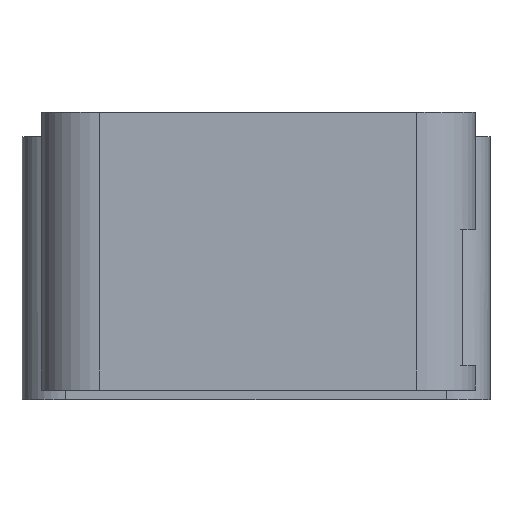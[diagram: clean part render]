
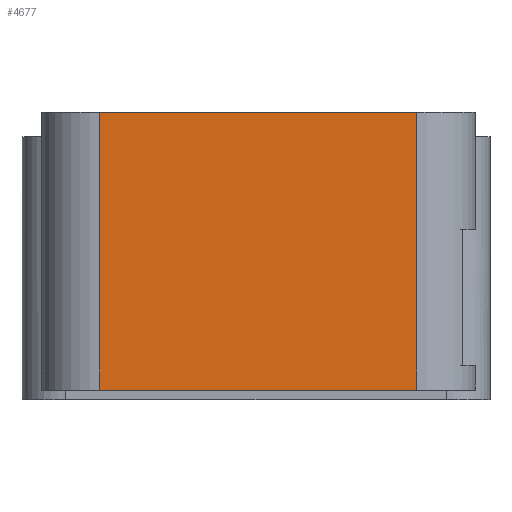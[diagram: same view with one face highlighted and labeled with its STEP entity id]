
A CAD part, left-side view. The second image highlights one B-rep face of the part: STEP entity #4677.
In plain terms, the highlighted planar face has unit normal (-1, 0, 0).
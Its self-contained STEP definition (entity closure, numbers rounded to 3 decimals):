
#1809 = PLANE('',#1810);
#1810 = AXIS2_PLACEMENT_3D('',#1811,#1812,#1813);
#1811 = CARTESIAN_POINT('',(-42.,-43.,-40.));
#1812 = DIRECTION('',(0.,0.,1.));
#1813 = DIRECTION('',(1.,0.,0.));
#1980 = PLANE('',#1981);
#1981 = AXIS2_PLACEMENT_3D('',#1982,#1983,#1984);
#1982 = CARTESIAN_POINT('',(-42.,-43.,17.));
#1983 = DIRECTION('',(0.,0.,1.));
#1984 = DIRECTION('',(1.,0.,0.));
#2866 = VERTEX_POINT('',#2867);
#2867 = CARTESIAN_POINT('',(-83.,-31.,-40.));
#2882 = CYLINDRICAL_SURFACE('',#2883,12.);
#2883 = AXIS2_PLACEMENT_3D('',#2884,#2885,#2886);
#2884 = CARTESIAN_POINT('',(-71.,-31.,-40.));
#2885 = DIRECTION('',(-0.,-0.,1.));
#2886 = DIRECTION('',(-1.,-0.,-0.));
#2894 = EDGE_CURVE('',#2866,#2895,#2897,.T.);
#2895 = VERTEX_POINT('',#2896);
#2896 = CARTESIAN_POINT('',(-83.,34.,-40.));
#2897 = SURFACE_CURVE('',#2898,(#2902,#2909),.PCURVE_S1.);
#2898 = LINE('',#2899,#2900);
#2899 = CARTESIAN_POINT('',(-83.,-43.,-40.));
#2900 = VECTOR('',#2901,1.);
#2901 = DIRECTION('',(-0.,1.,0.));
#2902 = PCURVE('',#1809,#2903);
#2903 = DEFINITIONAL_REPRESENTATION('',(#2904),#2908);
#2904 = LINE('',#2905,#2906);
#2905 = CARTESIAN_POINT('',(-41.,0.));
#2906 = VECTOR('',#2907,1.);
#2907 = DIRECTION('',(-0.,1.));
#2908 = ( GEOMETRIC_REPRESENTATION_CONTEXT(2) 
PARAMETRIC_REPRESENTATION_CONTEXT() REPRESENTATION_CONTEXT('2D SPACE',''
  ) );
#2909 = PCURVE('',#2910,#2915);
#2910 = PLANE('',#2911);
#2911 = AXIS2_PLACEMENT_3D('',#2912,#2913,#2914);
#2912 = CARTESIAN_POINT('',(-83.,-43.,-40.));
#2913 = DIRECTION('',(-1.,-0.,0.));
#2914 = DIRECTION('',(0.,0.,-1.));
#2915 = DEFINITIONAL_REPRESENTATION('',(#2916),#2920);
#2916 = LINE('',#2917,#2918);
#2917 = CARTESIAN_POINT('',(-0.,-0.));
#2918 = VECTOR('',#2919,1.);
#2919 = DIRECTION('',(-0.,-1.));
#2920 = ( GEOMETRIC_REPRESENTATION_CONTEXT(2) 
PARAMETRIC_REPRESENTATION_CONTEXT() REPRESENTATION_CONTEXT('2D SPACE',''
  ) );
#2943 = CYLINDRICAL_SURFACE('',#2944,12.);
#2944 = AXIS2_PLACEMENT_3D('',#2945,#2946,#2947);
#2945 = CARTESIAN_POINT('',(-71.,34.,-40.));
#2946 = DIRECTION('',(-0.,-0.,1.));
#2947 = DIRECTION('',(-1.,-0.,-0.));
#3764 = VERTEX_POINT('',#3765);
#3765 = CARTESIAN_POINT('',(-83.,-31.,17.));
#3787 = EDGE_CURVE('',#3764,#3788,#3790,.T.);
#3788 = VERTEX_POINT('',#3789);
#3789 = CARTESIAN_POINT('',(-83.,34.,17.));
#3790 = SURFACE_CURVE('',#3791,(#3795,#3802),.PCURVE_S1.);
#3791 = LINE('',#3792,#3793);
#3792 = CARTESIAN_POINT('',(-83.,-43.,17.));
#3793 = VECTOR('',#3794,1.);
#3794 = DIRECTION('',(-0.,1.,0.));
#3795 = PCURVE('',#1980,#3796);
#3796 = DEFINITIONAL_REPRESENTATION('',(#3797),#3801);
#3797 = LINE('',#3798,#3799);
#3798 = CARTESIAN_POINT('',(-41.,0.));
#3799 = VECTOR('',#3800,1.);
#3800 = DIRECTION('',(-0.,1.));
#3801 = ( GEOMETRIC_REPRESENTATION_CONTEXT(2) 
PARAMETRIC_REPRESENTATION_CONTEXT() REPRESENTATION_CONTEXT('2D SPACE',''
  ) );
#3802 = PCURVE('',#2910,#3803);
#3803 = DEFINITIONAL_REPRESENTATION('',(#3804),#3808);
#3804 = LINE('',#3805,#3806);
#3805 = CARTESIAN_POINT('',(-57.,-0.));
#3806 = VECTOR('',#3807,1.);
#3807 = DIRECTION('',(-0.,-1.));
#3808 = ( GEOMETRIC_REPRESENTATION_CONTEXT(2) 
PARAMETRIC_REPRESENTATION_CONTEXT() REPRESENTATION_CONTEXT('2D SPACE',''
  ) );
#4657 = EDGE_CURVE('',#2895,#3788,#4658,.T.);
#4658 = SURFACE_CURVE('',#4659,(#4663,#4670),.PCURVE_S1.);
#4659 = LINE('',#4660,#4661);
#4660 = CARTESIAN_POINT('',(-83.,34.,-40.));
#4661 = VECTOR('',#4662,1.);
#4662 = DIRECTION('',(-0.,-0.,1.));
#4663 = PCURVE('',#2943,#4664);
#4664 = DEFINITIONAL_REPRESENTATION('',(#4665),#4669);
#4665 = LINE('',#4666,#4667);
#4666 = CARTESIAN_POINT('',(-0.,0.));
#4667 = VECTOR('',#4668,1.);
#4668 = DIRECTION('',(-0.,1.));
#4669 = ( GEOMETRIC_REPRESENTATION_CONTEXT(2) 
PARAMETRIC_REPRESENTATION_CONTEXT() REPRESENTATION_CONTEXT('2D SPACE',''
  ) );
#4670 = PCURVE('',#2910,#4671);
#4671 = DEFINITIONAL_REPRESENTATION('',(#4672),#4676);
#4672 = LINE('',#4673,#4674);
#4673 = CARTESIAN_POINT('',(-0.,-77.));
#4674 = VECTOR('',#4675,1.);
#4675 = DIRECTION('',(-1.,-0.));
#4676 = ( GEOMETRIC_REPRESENTATION_CONTEXT(2) 
PARAMETRIC_REPRESENTATION_CONTEXT() REPRESENTATION_CONTEXT('2D SPACE',''
  ) );
#4677 = ADVANCED_FACE('',(#4678),#2910,.T.);
#4678 = FACE_BOUND('',#4679,.F.);
#4679 = EDGE_LOOP('',(#4680,#4681,#4702,#4703));
#4680 = ORIENTED_EDGE('',*,*,#3787,.F.);
#4681 = ORIENTED_EDGE('',*,*,#4682,.F.);
#4682 = EDGE_CURVE('',#2866,#3764,#4683,.T.);
#4683 = SURFACE_CURVE('',#4684,(#4688,#4695),.PCURVE_S1.);
#4684 = LINE('',#4685,#4686);
#4685 = CARTESIAN_POINT('',(-83.,-31.,-40.));
#4686 = VECTOR('',#4687,1.);
#4687 = DIRECTION('',(-0.,-0.,1.));
#4688 = PCURVE('',#2910,#4689);
#4689 = DEFINITIONAL_REPRESENTATION('',(#4690),#4694);
#4690 = LINE('',#4691,#4692);
#4691 = CARTESIAN_POINT('',(-0.,-12.));
#4692 = VECTOR('',#4693,1.);
#4693 = DIRECTION('',(-1.,-0.));
#4694 = ( GEOMETRIC_REPRESENTATION_CONTEXT(2) 
PARAMETRIC_REPRESENTATION_CONTEXT() REPRESENTATION_CONTEXT('2D SPACE',''
  ) );
#4695 = PCURVE('',#2882,#4696);
#4696 = DEFINITIONAL_REPRESENTATION('',(#4697),#4701);
#4697 = LINE('',#4698,#4699);
#4698 = CARTESIAN_POINT('',(0.,0.));
#4699 = VECTOR('',#4700,1.);
#4700 = DIRECTION('',(0.,1.));
#4701 = ( GEOMETRIC_REPRESENTATION_CONTEXT(2) 
PARAMETRIC_REPRESENTATION_CONTEXT() REPRESENTATION_CONTEXT('2D SPACE',''
  ) );
#4702 = ORIENTED_EDGE('',*,*,#2894,.T.);
#4703 = ORIENTED_EDGE('',*,*,#4657,.T.);
